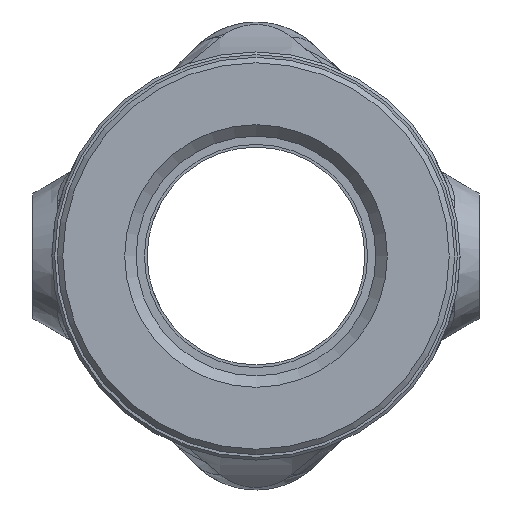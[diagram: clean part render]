
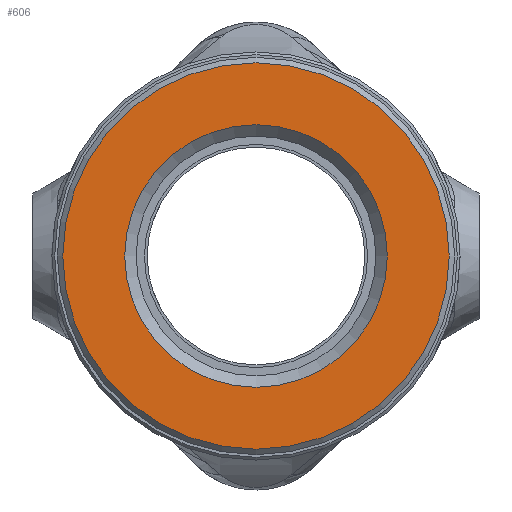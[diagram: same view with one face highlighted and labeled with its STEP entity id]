
A CAD part, left-side view. The second image highlights one B-rep face of the part: STEP entity #606.
In plain terms, the highlighted planar face has unit normal (-1, 0, 0).
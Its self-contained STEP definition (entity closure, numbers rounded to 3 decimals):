
#606=ADVANCED_FACE('',(#705,#706),#648,.F.);
#648=PLANE('',#2371);
#705=FACE_BOUND('',#901,.T.);
#706=FACE_BOUND('',#902,.T.);
#901=EDGE_LOOP('',(#1503));
#902=EDGE_LOOP('',(#1504));
#1503=ORIENTED_EDGE('',*,*,#2011,.T.);
#1504=ORIENTED_EDGE('',*,*,#2012,.T.);
#1710=VERTEX_POINT('',#5553);
#1711=VERTEX_POINT('',#5555);
#2011=EDGE_CURVE('',#1710,#1710,#2151,.T.);
#2012=EDGE_CURVE('',#1711,#1711,#2152,.T.);
#2151=CIRCLE('',#2369,35.5);
#2152=CIRCLE('',#2370,24.13);
#2369=AXIS2_PLACEMENT_3D('',#5552,#2847,#2848);
#2370=AXIS2_PLACEMENT_3D('',#5554,#2849,#2850);
#2371=AXIS2_PLACEMENT_3D('',#5556,#2851,#2852);
#2847=DIRECTION('',(-1.,0.,0.));
#2848=DIRECTION('',(0.,0.,-1.));
#2849=DIRECTION('',(1.,0.,0.));
#2850=DIRECTION('',(0.,0.,-1.));
#2851=DIRECTION('',(1.,0.,0.));
#2852=DIRECTION('',(0.,0.,-1.));
#5552=CARTESIAN_POINT('',(-100.,0.,0.));
#5553=CARTESIAN_POINT('',(-100.,0.,-35.5));
#5554=CARTESIAN_POINT('',(-100.,0.,0.));
#5555=CARTESIAN_POINT('',(-100.,0.,-24.13));
#5556=CARTESIAN_POINT('',(-100.,0.,0.));
